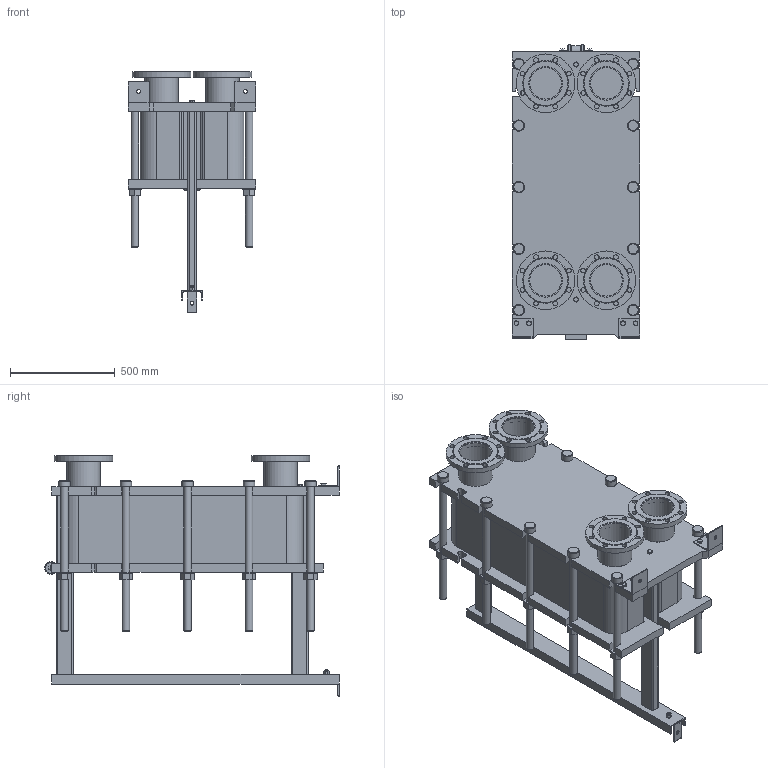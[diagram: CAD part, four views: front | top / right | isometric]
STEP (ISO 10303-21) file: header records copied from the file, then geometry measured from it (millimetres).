
FILE_DESCRIPTION(/* description */ (''),/* implementation_level */ '2;1');
FILE_NAME(/* name */ 'C:\Users\zhuro\Desktop\ENCO\TO\ЭН-041\ЭН-0,5-041-95-1.stp',/* time_stamp */ '2022-06-06T10:57:37+03:00',/* author */ ('zhuro'),/* organization */ (''),/* preprocessor_version */ 'ST-DEVELOPER v18.1',/* originating_system */ 'Autodesk Inventor 2022',/* authorisation */ '');
FILE_SCHEMA (('AUTOMOTIVE_DESIGN { 1 0 10303 214 3 1 1 }'));
Length unit declared in the file: millimetre
Products named in the file (1): ЭН-0,5-041-95-1
Bounding box: 610 x 1406.5 x 1152.5 mm (x, y, z)
Volume: 264460607.2 mm3; surface area: 8914265.2 mm2
Topology: 52 solids, 52 shells, 711 faces, 1696 edges, 1094 vertices
Faces by surface type: plane 487, cylinder 177, cone 41, torus 6
Full cylindrical faces by diameter (mm): 8 x4, 10 x2, 16 x8, 18 x3, 22 x32, 36 x24, 50 x1, 54 x10, 60 x12, 151 x4, 161 x8, 280 x4
Entity records: 22667 total; most frequent: CARTESIAN_POINT 5230, DIRECTION 3644, ORIENTED_EDGE 3392, EDGE_CURVE 1696, AXIS2_PLACEMENT_3D 1272, LINE 1100, VECTOR 1100, VERTEX_POINT 1094
